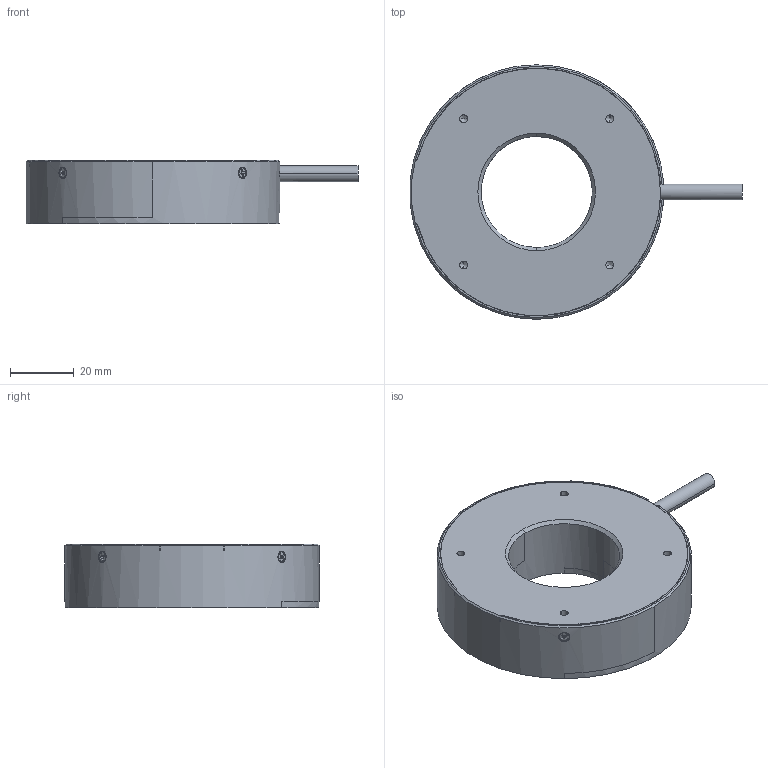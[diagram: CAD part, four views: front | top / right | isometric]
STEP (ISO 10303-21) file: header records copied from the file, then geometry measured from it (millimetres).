
FILE_DESCRIPTION((''),'2;1');
FILE_NAME('MV-LRDS-H-80-90-W','2022-09-02T14:09:07',('qiaoxuan5'),(''),'CREO PARAMETRIC BY PTC INC, 2020044','CREO PARAMETRIC BY PTC INC, 2020044','');
FILE_SCHEMA(('CONFIG_CONTROL_DESIGN'));
Length unit declared in the file: metre
Products named in the file (1): MV-LRDS-H-80-90-W
Bounding box: 104.44 x 80 x 20 mm (x, y, z)
Volume: 81238.9 mm3; surface area: 19503.2 mm2
Topology: 1 solids, 13 shells, 455 faces, 1127 edges, 691 vertices
Faces by surface type: plane 259, cylinder 122, cone 74
Entity records: 13901 total; most frequent: CARTESIAN_POINT 3188, ORIENTED_EDGE 2214, DIRECTION 2188, EDGE_CURVE 1107, AXIS2_PLACEMENT_3D 742, VECTOR 704, LINE 704, VERTEX_POINT 691
